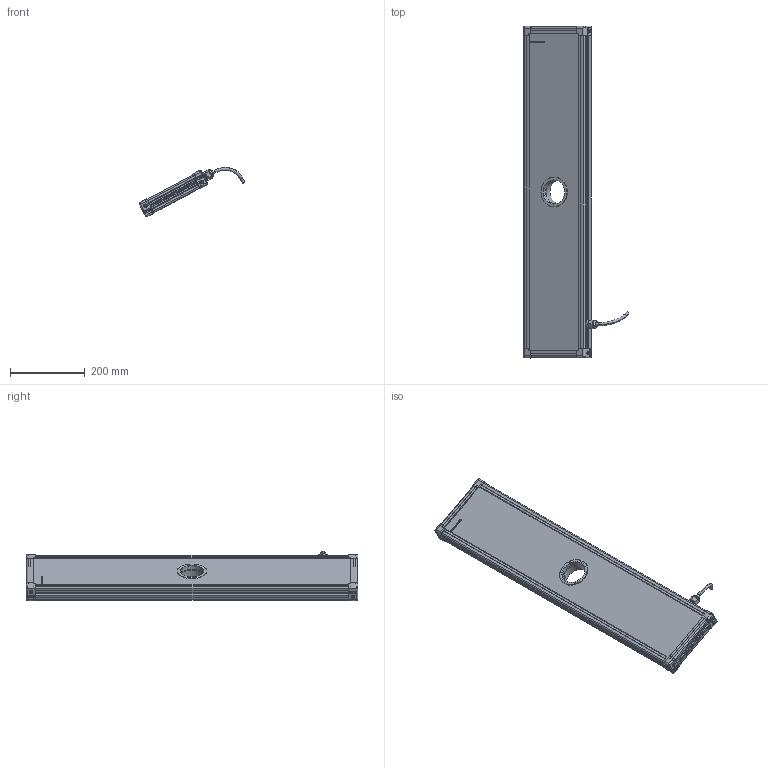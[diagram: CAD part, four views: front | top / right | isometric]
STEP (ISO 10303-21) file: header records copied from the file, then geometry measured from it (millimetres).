
FILE_DESCRIPTION (( 'STEP AP214' ), '1' );
FILE_NAME ('EFFI-FD-150-85-ZZZ-1M12P.STEP', '2021-06-23T09:29:55', ( '' ), ( '' ), 'SwSTEP 2.0', 'SolidWorks 2021', '' );
FILE_SCHEMA (( 'AUTOMOTIVE_DESIGN' ));
Length unit declared in the file: millimetre
Products named in the file (13): petite joue; 004409; petite joue + vis; 000590; profile Y_PERCE; M12 power_AVEC CABLE D8.1; EFFI-FD-150-85-ZZZ-1M12P; 004408; Pièce13^EFFI-FD-XXX-YYY-ZZZ (1 connecteur) M12POWER Ø65; profile X_PERCE; 000629; Assemblage Ø65
Assembly tree (19 placements, depth 3):
  EFFI-FD-150-85-ZZZ-1M12P
    profile X_PERCE  x2
    profile Y_PERCE
    profile Y_PERCE
    Pièce13^EFFI-FD-XXX-YYY-ZZZ (1 connecteur) M12POWER Ø65
    petite joue + vis  x4
      petite joue
      000629
    M12 power_AVEC CABLE D8.1
    Assemblage Ø65
      004408
      004409
      000590  x3
Bounding box: 282.59 x 889 x 131.93 mm (x, y, z)
Volume: 5655106.4 mm3; surface area: 689780.3 mm2
Topology: 22 solids, 25 shells, 3951 faces, 10520 edges, 6907 vertices
Faces by surface type: plane 2447, cylinder 720, bspline 591, cone 156, torus 29, sphere 8
Entity records: 56000 total; most frequent: CARTESIAN_POINT 22561, ORIENTED_EDGE 7014, DIRECTION 5746, EDGE_CURVE 3509, VECTOR 2458, LINE 2458, VERTEX_POINT 2308, AXIS2_PLACEMENT_3D 1644
